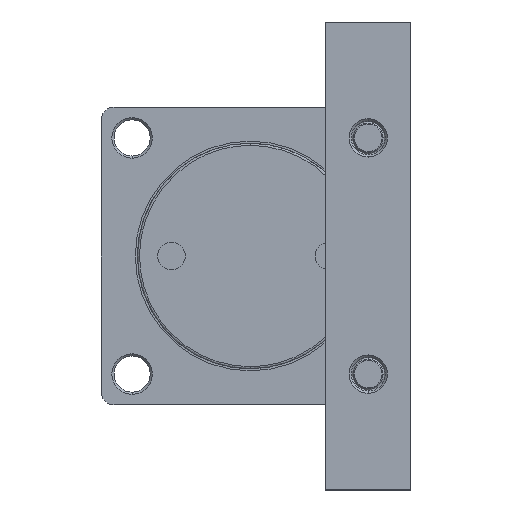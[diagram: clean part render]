
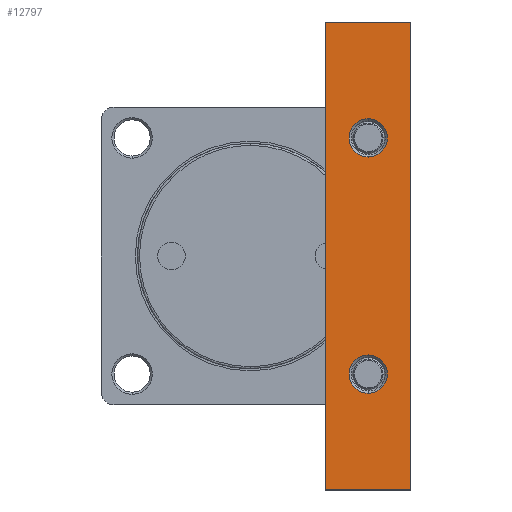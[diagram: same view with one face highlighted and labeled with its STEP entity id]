
A CAD part, left-side view. The second image highlights one B-rep face of the part: STEP entity #12797.
In plain terms, the highlighted planar face has unit normal (1, 0, 0).
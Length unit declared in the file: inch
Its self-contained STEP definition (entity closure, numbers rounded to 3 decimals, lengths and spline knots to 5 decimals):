
#68 = VERTEX_POINT ( 'NONE', #10067 ) ;
#170 = EDGE_CURVE ( 'NONE', #11040, #68, #4870, .T. ) ;
#302 = CARTESIAN_POINT ( 'NONE',  ( -2.61811, -1.39764, -4.33071 ) ) ;
#789 = AXIS2_PLACEMENT_3D ( 'NONE', #10963, #4308, #12000 ) ;
#883 = LINE ( 'NONE', #10652, #1206 ) ;
#972 = VERTEX_POINT ( 'NONE', #11902 ) ;
#1206 = VECTOR ( 'NONE', #5209, 39.37008 ) ;
#1285 = AXIS2_PLACEMENT_3D ( 'NONE', #1884, #9699, #2999 ) ;
#1688 = CARTESIAN_POINT ( 'NONE',  ( -2.61811, -2.97244, 4.33071 ) ) ;
#1884 = CARTESIAN_POINT ( 'NONE',  ( -2.61811, -2.18504, -2.18504 ) ) ;
#2512 = CIRCLE ( 'NONE', #789, 0.35433 ) ;
#2548 = ORIENTED_EDGE ( 'NONE', *, *, #13420, .T. ) ;
#2588 = AXIS2_PLACEMENT_3D ( 'NONE', #9509, #2810, #10629 ) ;
#2784 = FACE_BOUND ( 'NONE', #7498, .T. ) ;
#2810 = DIRECTION ( 'NONE',  ( -1., 0., 0. ) ) ;
#2999 = DIRECTION ( 'NONE',  ( 0., 0., 1. ) ) ;
#3557 = VERTEX_POINT ( 'NONE', #11033 ) ;
#4005 = PLANE ( 'NONE',  #12555 ) ;
#4308 = DIRECTION ( 'NONE',  ( -1., 0., 0. ) ) ;
#4404 = VERTEX_POINT ( 'NONE', #12084 ) ;
#4438 = DIRECTION ( 'NONE',  ( 0., 1., 0. ) ) ;
#4870 = LINE ( 'NONE', #9186, #4880 ) ;
#4880 = VECTOR ( 'NONE', #9109, 39.37008 ) ;
#5047 = VERTEX_POINT ( 'NONE', #5965 ) ;
#5080 = DIRECTION ( 'NONE',  ( 0., -1., 0. ) ) ;
#5082 = FACE_OUTER_BOUND ( 'NONE', #10469, .T. ) ;
#5209 = DIRECTION ( 'NONE',  ( 0., 0., -1. ) ) ;
#5221 = DIRECTION ( 'NONE',  ( 1., 0., 0. ) ) ;
#5270 = DIRECTION ( 'NONE',  ( -1., 0., 0. ) ) ;
#5423 = ORIENTED_EDGE ( 'NONE', *, *, #7912, .T. ) ;
#5604 = ORIENTED_EDGE ( 'NONE', *, *, #170, .T. ) ;
#5965 = CARTESIAN_POINT ( 'NONE',  ( -2.61811, -2.18504, 2.53937 ) ) ;
#6137 = VERTEX_POINT ( 'NONE', #12416 ) ;
#7293 = VERTEX_POINT ( 'NONE', #10471 ) ;
#7372 = EDGE_CURVE ( 'NONE', #6137, #5047, #10385, .T. ) ;
#7498 = EDGE_LOOP ( 'NONE', ( #12450, #5423 ) ) ;
#7510 = EDGE_CURVE ( 'NONE', #5047, #6137, #10881, .T. ) ;
#7545 = ORIENTED_EDGE ( 'NONE', *, *, #11967, .T. ) ;
#7912 = EDGE_CURVE ( 'NONE', #3557, #4404, #2512, .T. ) ;
#8714 = VECTOR ( 'NONE', #5080, 39.37008 ) ;
#8943 = ORIENTED_EDGE ( 'NONE', *, *, #7372, .T. ) ;
#9109 = DIRECTION ( 'NONE',  ( 0., 0., 1. ) ) ;
#9186 = CARTESIAN_POINT ( 'NONE',  ( -2.61811, -1.39764, 4.33071 ) ) ;
#9394 = ORIENTED_EDGE ( 'NONE', *, *, #7510, .T. ) ;
#9509 = CARTESIAN_POINT ( 'NONE',  ( -2.61811, -2.18504, 2.18504 ) ) ;
#9699 = DIRECTION ( 'NONE',  ( -1., 0., 0. ) ) ;
#9734 = AXIS2_PLACEMENT_3D ( 'NONE', #11826, #5270, #12872 ) ;
#9791 = EDGE_LOOP ( 'NONE', ( #9394, #8943 ) ) ;
#10067 = CARTESIAN_POINT ( 'NONE',  ( -2.61811, -1.39764, 4.33071 ) ) ;
#10385 = CIRCLE ( 'NONE', #2588, 0.35433 ) ;
#10469 = EDGE_LOOP ( 'NONE', ( #5604, #12321, #2548, #7545 ) ) ;
#10471 = CARTESIAN_POINT ( 'NONE',  ( -2.61811, -2.97244, -4.33071 ) ) ;
#10629 = DIRECTION ( 'NONE',  ( 0., 0., 1. ) ) ;
#10647 = FACE_BOUND ( 'NONE', #9791, .T. ) ;
#10652 = CARTESIAN_POINT ( 'NONE',  ( -2.61811, -2.97244, 4.33071 ) ) ;
#10754 = CARTESIAN_POINT ( 'NONE',  ( -2.61811, -2.97244, 4.33071 ) ) ;
#10881 = CIRCLE ( 'NONE', #9734, 0.35433 ) ;
#10963 = CARTESIAN_POINT ( 'NONE',  ( -2.61811, -2.18504, -2.18504 ) ) ;
#11033 = CARTESIAN_POINT ( 'NONE',  ( -2.61811, -2.18504, -2.53937 ) ) ;
#11040 = VERTEX_POINT ( 'NONE', #302 ) ;
#11076 = CARTESIAN_POINT ( 'NONE',  ( -2.61811, -2.97244, -4.33071 ) ) ;
#11463 = CIRCLE ( 'NONE', #1285, 0.35433 ) ;
#11826 = CARTESIAN_POINT ( 'NONE',  ( -2.61811, -2.18504, 2.18504 ) ) ;
#11902 = CARTESIAN_POINT ( 'NONE',  ( -2.61811, -2.97244, 4.33071 ) ) ;
#11967 = EDGE_CURVE ( 'NONE', #7293, #11040, #13393, .T. ) ;
#12000 = DIRECTION ( 'NONE',  ( 0., 0., 1. ) ) ;
#12084 = CARTESIAN_POINT ( 'NONE',  ( -2.61811, -2.18504, -1.83071 ) ) ;
#12249 = EDGE_CURVE ( 'NONE', #4404, #3557, #11463, .T. ) ;
#12255 = LINE ( 'NONE', #1688, #8714 ) ;
#12321 = ORIENTED_EDGE ( 'NONE', *, *, #12660, .T. ) ;
#12416 = CARTESIAN_POINT ( 'NONE',  ( -2.61811, -2.18504, 1.83071 ) ) ;
#12450 = ORIENTED_EDGE ( 'NONE', *, *, #12249, .T. ) ;
#12555 = AXIS2_PLACEMENT_3D ( 'NONE', #10754, #5221, #12828 ) ;
#12660 = EDGE_CURVE ( 'NONE', #68, #972, #12255, .T. ) ;
#12797 = ADVANCED_FACE ( 'NONE', ( #5082, #10647, #2784 ), #4005, .T. ) ;
#12828 = DIRECTION ( 'NONE',  ( 0., 0., -1. ) ) ;
#12872 = DIRECTION ( 'NONE',  ( 0., 0., 1. ) ) ;
#13393 = LINE ( 'NONE', #11076, #13728 ) ;
#13420 = EDGE_CURVE ( 'NONE', #972, #7293, #883, .T. ) ;
#13728 = VECTOR ( 'NONE', #4438, 39.37008 ) ;
